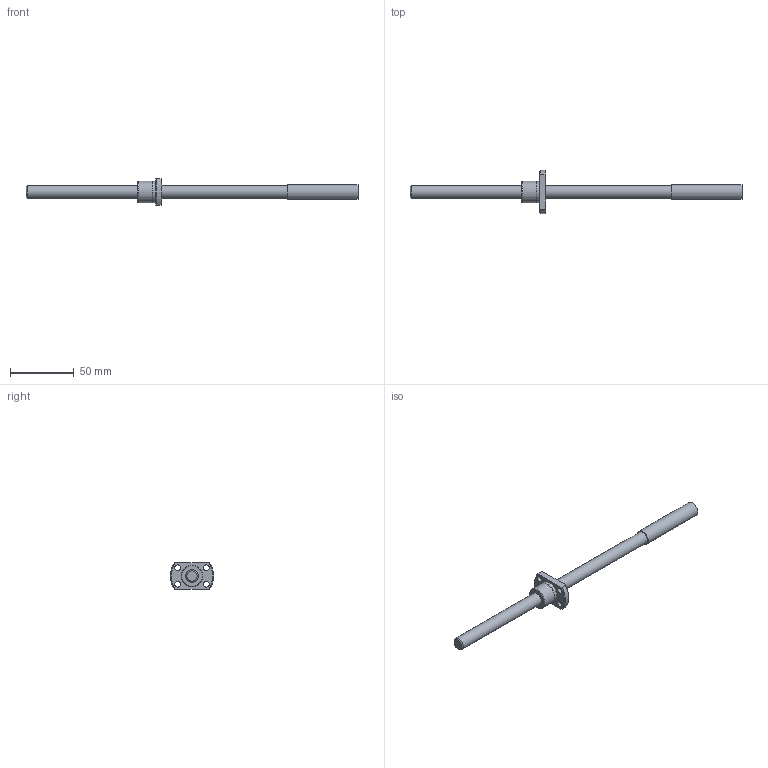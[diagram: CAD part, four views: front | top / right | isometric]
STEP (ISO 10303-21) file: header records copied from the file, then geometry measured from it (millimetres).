
FILE_DESCRIPTION(/* description */ ('STEP AP214'),/* implementation_level */ '2;1');
FILE_NAME(/* name */ 'SRT1002K-201R260C7A0X(A87.5None0X)',/* time_stamp */ '2026-08-06T15:08:36+02:00',/* author */ ('License CC BY-ND 4.0'),/* organization */ ('CADENAS'),/* preprocessor_version */ 'ST-DEVELOPER v20',/* originating_system */ 'PARTsolutions',/* authorisation */ ' ');
FILE_SCHEMA (('AUTOMOTIVE_DESIGN {1 0 10303 214 3 1 1}'));
Length unit declared in the file: millimetre
Products named in the file (3): SRT1002K-201R260C7A0X(A87.5None0X); 10ANone260; SR1002K_nut
Assembly tree (2 placements, depth 2):
  SRT1002K-201R260C7A0X(A87.5None0X)
    10ANone260
    SR1002K_nut
Bounding box: 260 x 34 x 21 mm (x, y, z)
Volume: 26646 mm3; surface area: 11793.7 mm2
Topology: 2 solids, 2 shells, 26 faces, 55 edges, 36 vertices
Faces by surface type: cylinder 11, plane 9, cone 6
Full cylindrical faces by diameter (mm): 4.5 x4, 10 x2, 11.7 x1, 16.6 x1, 17 x1
Entity records: 759 total; most frequent: CARTESIAN_POINT 133, DIRECTION 122, ORIENTED_EDGE 88, AXIS2_PLACEMENT_3D 57, EDGE_LOOP 50, FACE_BOUND 50, EDGE_CURVE 44, VERTEX_POINT 36
